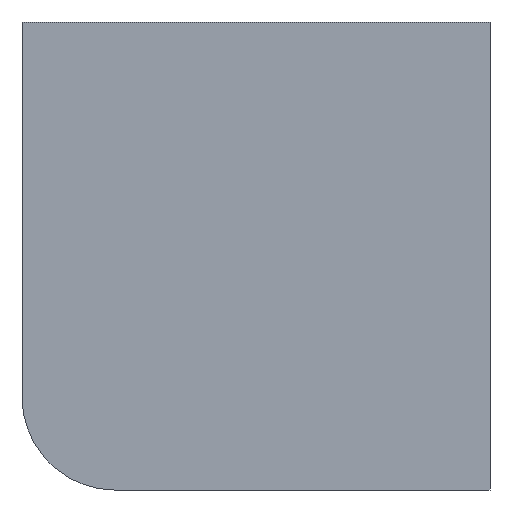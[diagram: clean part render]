
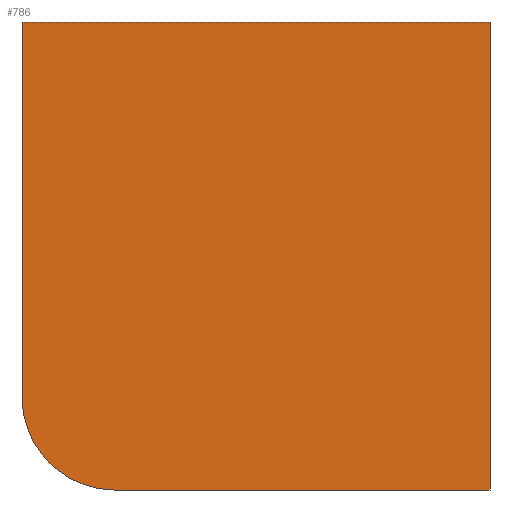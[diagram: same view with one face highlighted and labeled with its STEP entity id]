
A CAD part, front view. The second image highlights one B-rep face of the part: STEP entity #786.
In plain terms, the highlighted planar face has unit normal (0, -1, 0).
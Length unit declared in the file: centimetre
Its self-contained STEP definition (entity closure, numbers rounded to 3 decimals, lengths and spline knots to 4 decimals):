
#12 = DIRECTION ( 'NONE',  ( 0., 0., -1. ) ) ;
#20 = DIRECTION ( 'NONE',  ( 0., -1., 0. ) ) ;
#30 = DIRECTION ( 'NONE',  ( 0., 0., 1. ) ) ;
#61 = VERTEX_POINT ( 'NONE', #857 ) ;
#96 = PLANE ( 'NONE',  #171 ) ;
#127 = EDGE_CURVE ( 'NONE', #498, #424, #578, .T. ) ;
#141 = EDGE_CURVE ( 'NONE', #61, #258, #530, .T. ) ;
#148 = CARTESIAN_POINT ( 'NONE',  ( 0., 0., 0. ) ) ;
#155 = VECTOR ( 'NONE', #12, 100. ) ;
#171 = AXIS2_PLACEMENT_3D ( 'NONE', #312, #376, #853 ) ;
#191 = LINE ( 'NONE', #621, #155 ) ;
#227 = CARTESIAN_POINT ( 'NONE',  ( 1000., 0., 1000. ) ) ;
#245 = VECTOR ( 'NONE', #568, 100. ) ;
#258 = VERTEX_POINT ( 'NONE', #541 ) ;
#267 = CARTESIAN_POINT ( 'NONE',  ( 1000., 0., 0. ) ) ;
#274 = ORIENTED_EDGE ( 'NONE', *, *, #141, .T. ) ;
#291 = DIRECTION ( 'NONE',  ( 0., 0., -1. ) ) ;
#312 = CARTESIAN_POINT ( 'NONE',  ( 0., 0., 1000. ) ) ;
#322 = AXIS2_PLACEMENT_3D ( 'NONE', #706, #20, #30 ) ;
#333 = VECTOR ( 'NONE', #781, 100. ) ;
#376 = DIRECTION ( 'NONE',  ( 0., 1., 0. ) ) ;
#378 = EDGE_CURVE ( 'NONE', #893, #61, #191, .T. ) ;
#402 = ORIENTED_EDGE ( 'NONE', *, *, #649, .F. ) ;
#422 = LINE ( 'NONE', #554, #245 ) ;
#424 = VERTEX_POINT ( 'NONE', #267 ) ;
#427 = CARTESIAN_POINT ( 'NONE',  ( 1000., 0., 1000. ) ) ;
#464 = CARTESIAN_POINT ( 'NONE',  ( 0., 0., 1000. ) ) ;
#498 = VERTEX_POINT ( 'NONE', #427 ) ;
#530 = CIRCLE ( 'NONE', #322, 198.3927 ) ;
#541 = CARTESIAN_POINT ( 'NONE',  ( 198.3927, 0., 0. ) ) ;
#554 = CARTESIAN_POINT ( 'NONE',  ( 0., 0., 1000. ) ) ;
#568 = DIRECTION ( 'NONE',  ( 1., 0., 0. ) ) ;
#578 = LINE ( 'NONE', #227, #849 ) ;
#621 = CARTESIAN_POINT ( 'NONE',  ( 0., 0., 1000. ) ) ;
#629 = EDGE_LOOP ( 'NONE', ( #816, #274, #887, #793, #402 ) ) ;
#639 = LINE ( 'NONE', #148, #333 ) ;
#649 = EDGE_CURVE ( 'NONE', #893, #498, #422, .T. ) ;
#654 = EDGE_CURVE ( 'NONE', #258, #424, #639, .T. ) ;
#659 = FACE_OUTER_BOUND ( 'NONE', #629, .T. ) ;
#706 = CARTESIAN_POINT ( 'NONE',  ( 198.3927, 0., 198.3927 ) ) ;
#781 = DIRECTION ( 'NONE',  ( 1., 0., 0. ) ) ;
#786 = ADVANCED_FACE ( 'NONE', ( #659 ), #96, .F. ) ;
#793 = ORIENTED_EDGE ( 'NONE', *, *, #127, .F. ) ;
#816 = ORIENTED_EDGE ( 'NONE', *, *, #378, .T. ) ;
#849 = VECTOR ( 'NONE', #291, 100. ) ;
#853 = DIRECTION ( 'NONE',  ( 0., 0., 1. ) ) ;
#857 = CARTESIAN_POINT ( 'NONE',  ( 0., 0., 198.3927 ) ) ;
#887 = ORIENTED_EDGE ( 'NONE', *, *, #654, .T. ) ;
#893 = VERTEX_POINT ( 'NONE', #464 ) ;
